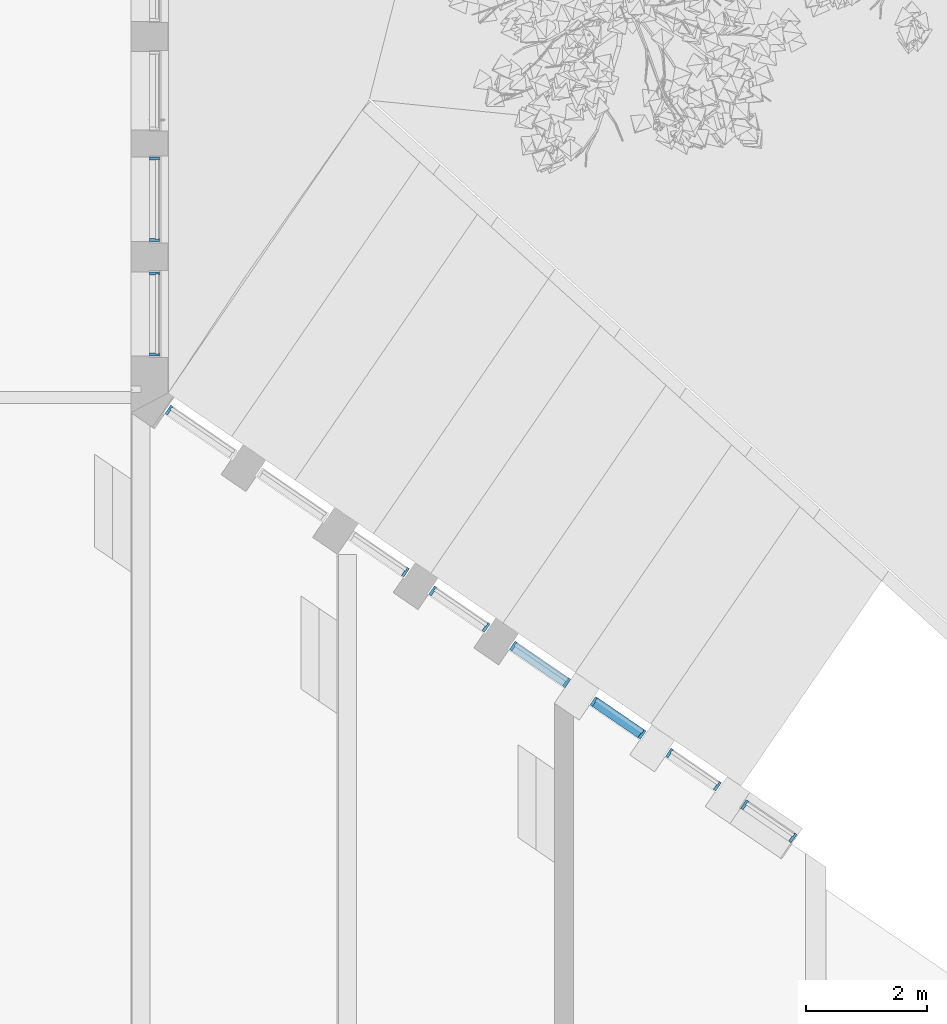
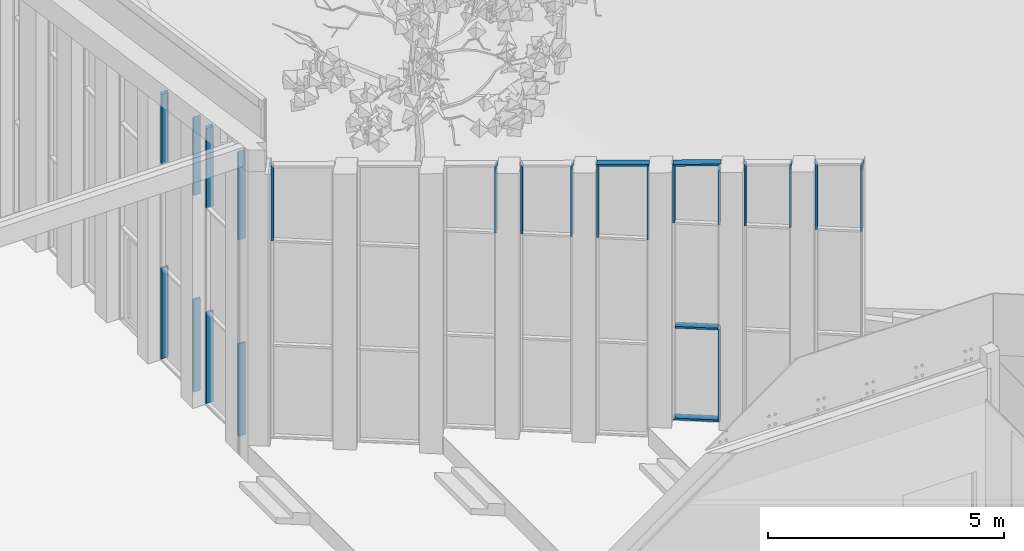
# One storey, part 63 of 246: 25 members, 9 elements without a shape of their own.
"""IFC2X3 building model written with IfcOpenShell, lengths in millimetres."""

from ifc_helpers import new_model, entity, si_unit, converted_unit, derived_unit, money_unit, direction, frame, origin_with_axes, place, context, subcontext, project, spatial, faceted_brep, material, type_object, element, aggregate, save


model = new_model("IFC2X3")

# Units and contexts
model_context = context("Model", 3, precision=0.01, world=origin_with_axes(), true_north=direction((0.0, 1.0)))
body_context = subcontext(model_context, "Body", "Model", "MODEL_VIEW")
ifc_project = project(units=[si_unit("LENGTHUNIT", "METRE", prefix="MILLI"), si_unit("AREAUNIT", "SQUARE_METRE"), si_unit("VOLUMEUNIT", "CUBIC_METRE"), converted_unit("PLANEANGLEUNIT", "DEGREE", entity("IfcPlaneAngleMeasure", 0.0174532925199), si_unit("PLANEANGLEUNIT", "RADIAN"), dimensions=[0, 0, 0, 0, 0, 0, 0]), si_unit("SOLIDANGLEUNIT", "STERADIAN"), money_unit("EUR"), converted_unit("TIMEUNIT", "Year", entity("IfcTimeMeasure", 31556926.0), si_unit("TIMEUNIT", "SECOND"), dimensions=[0, 0, 1, 0, 0, 0, 0]), si_unit("MASSUNIT", "GRAM", prefix="KILO"), si_unit("THERMODYNAMICTEMPERATUREUNIT", "DEGREE_CELSIUS"), si_unit("LUMINOUSINTENSITYUNIT", "LUMEN"), si_unit("ENERGYUNIT", "JOULE", prefix="MEGA"), derived_unit("THERMALCONDUCTANCEUNIT", [(si_unit("POWERUNIT", "WATT"), 1), (si_unit("LENGTHUNIT", "METRE"), -1), (si_unit("THERMODYNAMICTEMPERATUREUNIT", "KELVIN"), -1)]), derived_unit("SPECIFICHEATCAPACITYUNIT", [(si_unit("ENERGYUNIT", "JOULE"), 1), (si_unit("MASSUNIT", "GRAM", prefix="KILO"), -1), (si_unit("THERMODYNAMICTEMPERATUREUNIT", "KELVIN"), -1)]), derived_unit("MASSDENSITYUNIT", [(si_unit("MASSUNIT", "GRAM", prefix="KILO"), 1), (si_unit("VOLUMEUNIT", "CUBIC_METRE"), -1)])], contexts=[model_context])

# Site, building, storey
site_placement = place(None, origin_with_axes())
site = spatial("IfcSite", under=ifc_project, at=site_placement, Name="L.Koidula tn 11b", CompositionType="ELEMENT")
building_placement = place(site_placement, origin_with_axes())
building = spatial("IfcBuilding", under=site, at=building_placement, Name="Rakvere Riigigümnaasium", CompositionType="ELEMENT")
storey_placement = place(building_placement, origin_with_axes())
storey = spatial("IfcBuildingStorey", under=building, at=storey_placement, Name="1.korrus 0,00", CompositionType="ELEMENT", Elevation=0.0)

# Curtain wall, member
curtain_wall_type = type_object("IfcCurtainWallType", Name="Curtain Wall Type", PredefinedType="NOTDEFINED")
curtain_wall_1_placement = place(storey_placement, frame((55097.3440674, 38688.315244, 1395.00000109), z_axis=(0.0, 0.0, 1.0), x_axis=(1.0, 0.0, 0.0)))
curtain_wall_1 = element("IfcCurtainWall", 1, at=curtain_wall_1_placement, inside=storey, type_object=curtain_wall_type, Name="KLF-06-24")
ifc_material = material(Name="Alumiiniumprofiil (RAL 7021)")
member_type_1 = type_object("IfcMemberType", Name="Transom Frame 50 x 170", PredefinedType="MULLION")
member_1_placement = place(curtain_wall_1_placement, frame((-418.351684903, 286.937825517, 2400.00005693), z_axis=(0.824666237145, -0.565619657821, 0.0), x_axis=(0.0, 0.0, 1.0)))
member_1 = element("IfcMember", 2, at=member_1_placement, type_object=member_type_1, material=ifc_material, Name="KLF-06-24-Profiilid", ObjectType="MULLION", context=body_context, shape_type="Brep", body=[
    faceted_brep([(-12.0, 26.0, 964.748701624), (-12.0, -26.0, 964.748701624), (-25.0, -26.0, 964.750070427), (-25.0, -46.0, 964.750070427), (25.0, -46.0, 964.744805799), (25.0, -26.0, 964.744805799), (12.0, -26.0, 964.746174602), (12.0, 26.0, 964.746174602), (25.0, 26.0, 964.744805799), (25.0, 124.0, 964.744805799), (-25.0, 124.0, 964.750070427), (-25.0, 26.0, 964.750070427), (-12.0, 26.0, 50.0), (-12.0, -26.0, 50.0), (-25.0, -26.0, 50.0), (-25.0, -46.0, 50.0), (25.0, -46.0, 50.0), (25.0, -26.0, 50.0), (12.0, -26.0, 50.0), (12.0, 26.0, 50.0), (25.0, 26.0, 50.0), (25.0, 124.0, 50.0), (-25.0, 124.0, 50.0), (-25.0, 26.0, 50.0)], [[[0, 1, 2, 3, 4, 5, 6, 7, 8, 9, 10, 11]], [[0, 12, 13, 1]], [[1, 13, 14, 2]], [[14, 15, 3, 2]], [[4, 3, 15, 16]], [[17, 5, 4, 16]], [[5, 17, 18, 6]], [[7, 6, 18, 19]], [[8, 7, 19, 20]], [[8, 20, 21, 9]], [[10, 9, 21, 22]], [[11, 10, 22, 23]], [[11, 23, 12, 0]], [[13, 12, 23, 22, 21, 20, 19, 18, 17, 16, 15, 14]]]),
])

curtain_wall_2_placement = place(storey_placement, frame((48188.9005026, 43426.6609741, 465.0), z_axis=(0.0, 0.0, 1.0), x_axis=(1.0, 0.0, 0.0)))
curtain_wall_2 = element("IfcCurtainWall", 3, at=curtain_wall_2_placement, inside=storey, type_object=curtain_wall_type, Name="KLF-06-29")
member_type_2 = type_object("IfcMemberType", Name="Boundary Frame 50 x 170", PredefinedType="MULLION")
member_2_placement = place(curtain_wall_2_placement, frame((-552.526261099, 378.965089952, 7039.01609685), z_axis=(-1.52320702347e-08, 1.04473247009e-08, -1.0), x_axis=(0.824666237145, -0.565619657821, -1.84705862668e-08)))
member_2 = element("IfcMember", 4, at=member_2_placement, type_object=member_type_2, material=ifc_material, Name="KLF-06-51-Profiilid", ObjectType="MULLION", context=body_context, shape_type="Brep", body=[
    faceted_brep([(37.0000358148, 26.0, 1939.01609668), (50.0000358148, 26.0, 1939.01609644), (50.0000358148, 124.0, 1939.01609644), (3.58147609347e-05, 124.0, 1939.01609736), (3.58147609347e-05, -46.0, 1939.01609736), (50.0000358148, -46.0, 1939.01609644), (50.0000358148, -26.0, 1939.01609644), (37.0000358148, -26.0, 1939.01609668), (37.000000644, 26.0, 34.8661425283), (50.0000008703, 26.0, 47.1164088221), (50.0000008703, 124.0, 47.1164088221), (0.0, 124.0, 0.0), (0.0, -46.0, 0.0), (50.0000008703, -46.0, 47.1164088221), (50.0000008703, -26.0, 47.1164088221), (37.000000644, -26.0, 34.8661425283)], [[[0, 1, 2, 3, 4, 5, 6, 7]], [[0, 8, 9, 1]], [[9, 10, 2, 1]], [[2, 10, 11, 3]], [[3, 11, 12, 4]], [[4, 12, 13, 5]], [[6, 5, 13, 14]], [[14, 15, 7, 6]], [[7, 15, 8, 0]], [[8, 15, 14, 13, 12, 11, 10, 9]]]),
])
aggregate(curtain_wall_2, [member_2])

curtain_wall_3_placement = place(storey_placement, frame((51132.8497103, 41407.4731801, 929.821783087), z_axis=(0.0, 0.0, 1.0), x_axis=(1.0, 0.0, 0.0)))
curtain_wall_3 = element("IfcCurtainWall", 5, at=curtain_wall_3_placement, inside=storey, type_object=curtain_wall_type, Name="KLF-06-27")
member_3_placement = place(curtain_wall_3_placement, frame((461.812995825, -316.746941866, 5100.0000654), z_axis=(2.76097093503e-08, -1.89368663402e-08, 1.0), x_axis=(-0.824666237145, 0.565619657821, 3.34798589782e-08)))
member_3 = element("IfcMember", 6, at=member_3_placement, type_object=member_type_2, material=ifc_material, Name="KLF-06-46-Profiilid", ObjectType="MULLION", context=body_context, shape_type="Brep", body=[
    faceted_brep([(37.0000575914, 26.0, 1720.18114959), (50.0000571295, 26.0, 1706.3855298), (50.0000571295, 124.0, 1706.3855298), (5.89059858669e-05, 124.0, 1759.44560592), (5.89059823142e-05, -46.0, 1759.44560592), (50.0000571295, -46.0, 1706.3855298), (50.0000571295, -26.0, 1706.3855298), (37.0000575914, -26.0, 1720.18114959), (37.0, 26.0, -2.31914309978e-06), (50.0, 26.0, -2.75438161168e-06), (50.0, 124.0, -2.75438161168e-06), (0.0, 124.0, -1.08038822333e-06), (0.0, -46.0, -1.08038822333e-06), (50.0, -46.0, -2.75438161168e-06), (50.0, -26.0, -2.75438161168e-06), (37.0, -26.0, -2.31914309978e-06)], [[[0, 1, 2, 3, 4, 5, 6, 7]], [[0, 8, 9, 1]], [[9, 10, 2, 1]], [[10, 11, 3, 2]], [[11, 12, 4, 3]], [[12, 13, 5, 4]], [[6, 5, 13, 14]], [[14, 15, 7, 6]], [[7, 15, 8, 0]], [[8, 15, 14, 13, 12, 11, 10, 9]]]),
])
aggregate(curtain_wall_3, [member_3])

# Curtain wall, members
curtain_wall_4_placement = place(storey_placement, frame((52468.8871131, 40491.1147045, 929.82179112), z_axis=(0.0, 0.0, 1.0), x_axis=(1.0, 0.0, 0.0)))
curtain_wall_4 = element("IfcCurtainWall", 7, at=curtain_wall_4_placement, inside=storey, type_object=curtain_wall_type, Name="KLF-06-26")
member_4_placement = place(curtain_wall_4_placement, frame((-461.813622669, 316.746250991, 5100.00005736), z_axis=(0.0, 0.0, 1.0), x_axis=(-0.824667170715, 0.565618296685, 0.0)))
member_4 = element("IfcMember", 8, at=member_4_placement, type_object=member_type_2, material=ifc_material, Name="KLF-06-47-Profiilid", ObjectType="MULLION", context=body_context, shape_type="Brep", body=[
    faceted_brep([(-37.0, 26.0, 1754.30330733), (-37.0, -26.0, 1754.30330733), (-50.0, -26.0, 1742.05304003), (-50.0, -46.0, 1742.05304003), (0.0, -46.0, 1789.16945271), (0.0, 124.0, 1789.16945271), (-50.0, 124.0, 1742.05304003), (-50.0, 26.0, 1742.05304003), (-37.0, 26.0, 0.0), (-37.0, -26.0, 0.0), (-50.0, -26.0, 0.0), (-50.0, -46.0, 0.0), (0.0, -46.0, 0.0), (0.0, 124.0, 0.0), (-50.0, 124.0, 0.0), (-50.0, 26.0, 0.0)], [[[0, 1, 2, 3, 4, 5, 6, 7]], [[1, 0, 8, 9]], [[10, 2, 1, 9]], [[2, 10, 11, 3]], [[12, 4, 3, 11]], [[13, 5, 4, 12]], [[14, 6, 5, 13]], [[15, 7, 6, 14]], [[0, 7, 15, 8]], [[8, 15, 14, 13, 12, 11, 10, 9]]]),
])
member_5_placement = place(curtain_wall_4_placement, frame((461.81359071, -316.746229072, 5100.00005736), z_axis=(-2.57505861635e-08, 1.7661674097e-08, 1.0), x_axis=(-0.824667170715, 0.565618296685, -3.12254290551e-08)))
member_5 = element("IfcMember", 9, at=member_5_placement, type_object=member_type_2, material=ifc_material, Name="KLF-06-45-Profiilid", ObjectType="MULLION", context=body_context, shape_type="Brep", body=[
    faceted_brep([(36.9999432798, 26.0, 1816.47392622), (49.9999437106, 26.0, 1802.67830972), (49.9999437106, 124.0, 1802.67830972), (-5.7946227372e-05, 124.0, 1855.73837321), (-5.7946227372e-05, -46.0, 1855.73837321), (49.9999437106, -46.0, 1802.67830972), (49.9999437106, -26.0, 1802.67830972), (36.9999432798, -26.0, 1816.47392622), (37.0, 26.0, 7.33528793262e-07), (50.0, 26.0, 1.13945919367e-06), (50.0, 124.0, 1.13945919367e-06), (0.0, 124.0, -4.21811918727e-07), (0.0, -46.0, -4.21811918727e-07), (50.0, -46.0, 1.13945919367e-06), (50.0, -26.0, 1.13945919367e-06), (37.0, -26.0, 7.33528793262e-07)], [[[0, 1, 2, 3, 4, 5, 6, 7]], [[0, 8, 9, 1]], [[9, 10, 2, 1]], [[10, 11, 3, 2]], [[11, 12, 4, 3]], [[12, 13, 5, 4]], [[6, 5, 13, 14]], [[14, 15, 7, 6]], [[7, 15, 8, 0]], [[8, 15, 14, 13, 12, 11, 10, 9]]]),
])
aggregate(curtain_wall_4, [member_4, member_5])

curtain_wall_5_placement = place(storey_placement, frame((53804.0228659, 39575.3763588, 929.821791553), z_axis=(0.0, 0.0, 1.0), x_axis=(1.0, 0.0, 0.0)))
curtain_wall_5 = element("IfcCurtainWall", 10, at=curtain_wall_5_placement, inside=storey, type_object=curtain_wall_type, Name="KLF-06-25")
member_6_placement = place(curtain_wall_5_placement, frame((-461.813630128, 316.74737692, 5100.00005693), z_axis=(0.0, 0.0, 1.0), x_axis=(-0.824666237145, 0.565619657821, 0.0)))
member_6 = element("IfcMember", 11, at=member_6_placement, type_object=member_type_2, material=ifc_material, Name="KLF-06-54-Profiilid", ObjectType="MULLION", context=body_context, shape_type="Brep", body=[
    faceted_brep([(-37.0, 26.0, 1850.58864372), (-37.0, -26.0, 1850.58864372), (-50.0, -26.0, 1838.33772713), (-50.0, -46.0, 1838.33772713), (0.0, -46.0, 1885.4566371), (0.0, 124.0, 1885.4566371), (-50.0, 124.0, 1838.33772713), (-50.0, 26.0, 1838.33772713), (-37.0, 26.0, 0.0), (-37.0, -26.0, 0.0), (-50.0, -26.0, 0.0), (-50.0, -46.0, 0.0), (0.0, -46.0, 0.0), (0.0, 124.0, 0.0), (-50.0, 124.0, 0.0), (-50.0, 26.0, 0.0)], [[[0, 1, 2, 3, 4, 5, 6, 7]], [[1, 0, 8, 9]], [[10, 2, 1, 9]], [[2, 10, 11, 3]], [[12, 4, 3, 11]], [[13, 5, 4, 12]], [[14, 6, 5, 13]], [[15, 7, 6, 14]], [[0, 7, 15, 8]], [[8, 15, 14, 13, 12, 11, 10, 9]]]),
])
member_7_placement = place(curtain_wall_5_placement, frame((461.813643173, -316.747385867, 5100.00005693), z_axis=(1.28503407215e-08, -8.81375830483e-09, 1.0), x_axis=(-0.824666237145, 0.565619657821, 1.55824770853e-08)))
member_7 = element("IfcMember", 12, at=member_7_placement, type_object=member_type_2, material=ifc_material, Name="KLF-06-52-Profiilid", ObjectType="MULLION", context=body_context, shape_type="Brep", body=[
    faceted_brep([(37.0000298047, 26.0, 1912.70380687), (50.0000295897, 26.0, 1898.90892027), (50.0000295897, 124.0, 1898.90892027), (3.04164728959e-05, 124.0, 1951.96617642), (3.04164693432e-05, -46.0, 1951.96617642), (50.0000295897, -46.0, 1898.90892027), (50.0000295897, -26.0, 1898.90892027), (37.0000298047, -26.0, 1912.70380687), (37.0, 26.0, -6.73185063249e-07), (50.0, 26.0, -8.75757244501e-07), (50.0, 124.0, -8.75757244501e-07), (0.0, 124.0, -9.6632923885e-08), (0.0, -46.0, -9.66338120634e-08), (50.0, -46.0, -8.75758132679e-07), (50.0, -26.0, -8.75758132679e-07), (37.0, -26.0, -6.73185063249e-07)], [[[0, 1, 2, 3, 4, 5, 6, 7]], [[0, 8, 9, 1]], [[9, 10, 2, 1]], [[10, 11, 3, 2]], [[11, 12, 4, 3]], [[12, 13, 5, 4]], [[6, 5, 13, 14]], [[14, 15, 7, 6]], [[7, 15, 8, 0]], [[8, 15, 14, 13, 12, 11, 10, 9]]]),
])
member_8_placement = place(curtain_wall_5_placement, frame((461.813668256, -316.747403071, 7051.96623335), z_axis=(-0.82321602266, 0.564624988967, -0.0592790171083), x_axis=(0.0488854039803, -0.0335293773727, -0.998241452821)))
member_8 = element("IfcMember", 13, at=member_8_placement, type_object=member_type_2, material=ifc_material, Name="KLF-06-53-Profiilid", ObjectType="MULLION", context=body_context, shape_type="Brep", body=[
    faceted_brep([(37.0, 26.0, 1087.1064009), (50.0, 26.0, 1074.85548431), (50.0, 124.0, 1074.85548431), (0.0, 124.0, 1121.97439428), (0.0, -46.0, 1121.97439428), (50.0, -46.0, 1074.85548431), (50.0, -26.0, 1074.85548431), (37.0, -26.0, 1087.1064009), (37.0, 26.0, 39.262368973), (50.0, 26.0, 53.0572553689), (50.0, 124.0, 53.0572553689), (0.0, 124.0, 0.0), (0.0, -46.0, 0.0), (50.0, -46.0, 53.0572553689), (50.0, -26.0, 53.0572553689), (37.0, -26.0, 39.262368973)], [[[0, 1, 2, 3, 4, 5, 6, 7]], [[0, 8, 9, 1]], [[9, 10, 2, 1]], [[2, 10, 11, 3]], [[3, 11, 12, 4]], [[4, 12, 13, 5]], [[6, 5, 13, 14]], [[14, 15, 7, 6]], [[7, 15, 8, 0]], [[8, 15, 14, 13, 12, 11, 10, 9]]]),
])
aggregate(curtain_wall_5, [member_6, member_7, member_8])

# Member
member_9_placement = place(curtain_wall_1_placement, frame((418.227103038, -286.852377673, 5100.00005693), z_axis=(-8.68141369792e-05, 5.95438254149e-05, 0.999999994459), x_axis=(-0.824666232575, 0.565619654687, -0.00010527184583)))
member_9 = element("IfcMember", 14, at=member_9_placement, type_object=member_type_2, material=ifc_material, Name="KLF-06-43-Profiilid", ObjectType="MULLION", context=body_context, shape_type="Brep", body=[
    faceted_brep([(37.0, 26.0, 1406.85447369), (50.0, 26.0, 1406.85447369), (50.0, 124.0, 1406.85447369), (0.0, 124.0, 1406.85447369), (0.0, -46.0, 1406.85447369), (50.0, -46.0, 1406.85447369), (50.0, -26.0, 1406.85447369), (37.0, -26.0, 1406.85447369), (37.0, 26.0, -0.000165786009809), (50.0, 26.0, -0.000165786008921), (50.0, 124.0, -0.000165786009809), (0.0, 124.0, -0.000165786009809), (0.0, -46.0, -0.000165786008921), (50.0, -46.0, -0.000165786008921), (50.0, -26.0, -0.000165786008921), (37.0, -26.0, -0.000165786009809)], [[[0, 1, 2, 3, 4, 5, 6, 7]], [[0, 8, 9, 1]], [[9, 10, 2, 1]], [[10, 11, 3, 2]], [[11, 12, 4, 3]], [[12, 13, 5, 4]], [[6, 5, 13, 14]], [[14, 15, 7, 6]], [[7, 15, 8, 0]], [[8, 15, 14, 13, 12, 11, 10, 9]]]),
])

member_10_placement = place(curtain_wall_1_placement, frame((418.684661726, -287.166206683, 0.0), z_axis=(-8.68312304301e-05, 5.95555494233e-05, 0.999999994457), x_axis=(-0.824666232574, 0.565619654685, -0.000105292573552)))
member_10 = element("IfcMember", 15, at=member_10_placement, type_object=member_type_2, material=ifc_material, Name="KLF-06-41-Profiilid", ObjectType="MULLION", context=body_context, shape_type="Brep", body=[
    faceted_brep([(37.0, 26.0, 2400.0002355), (50.0, 26.0, 2400.0002355), (50.0, 124.0, 2400.0002355), (0.0, 124.0, 2400.0002355), (0.0, -46.0, 2400.0002355), (50.0, -46.0, 2400.0002355), (50.0, -26.0, 2400.0002355), (37.0, -26.0, 2400.0002355), (37.0, 26.0, 37.0038960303), (50.0, 26.0, 50.0052649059), (50.0, 124.0, 50.0052649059), (0.0, 124.0, 0.0), (0.0, -46.0, 0.0), (50.0, -46.0, 50.0052649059), (50.0, -26.0, 50.0052649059), (37.0, -26.0, 37.0038960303)], [[[0, 1, 2, 3, 4, 5, 6, 7]], [[0, 8, 9, 1]], [[9, 10, 2, 1]], [[2, 10, 11, 3]], [[3, 11, 12, 4]], [[4, 12, 13, 5]], [[6, 5, 13, 14]], [[14, 15, 7, 6]], [[7, 15, 8, 0]], [[8, 15, 14, 13, 12, 11, 10, 9]]]),
])

member_11_placement = place(curtain_wall_1_placement, frame((-418.351684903, 286.937825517, 5100.00005693), z_axis=(0.0, 0.0, 1.0), x_axis=(-0.824666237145, 0.565619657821, 0.0)))
member_11 = element("IfcMember", 16, at=member_11_placement, type_object=member_type_2, material=ifc_material, Name="KLF-06-45-Profiilid", ObjectType="MULLION", context=body_context, shape_type="Brep", body=[
    faceted_brep([(-37.0, 26.0, 1481.69937095), (-37.0, -26.0, 1481.69937095), (-50.0, -26.0, 1469.44910308), (-50.0, -46.0, 1469.44910308), (0.0, -46.0, 1516.56551795), (0.0, 124.0, 1516.56551795), (-50.0, 124.0, 1469.44910308), (-50.0, 26.0, 1469.44910308), (-37.0, 26.0, 0.0), (-37.0, -26.0, 0.0), (-50.0, -26.0, 0.0), (-50.0, -46.0, 0.0), (0.0, -46.0, 0.0), (0.0, 124.0, 0.0), (-50.0, 124.0, 0.0), (-50.0, 26.0, 0.0)], [[[0, 1, 2, 3, 4, 5, 6, 7]], [[1, 0, 8, 9]], [[10, 2, 1, 9]], [[2, 10, 11, 3]], [[12, 4, 3, 11]], [[13, 5, 4, 12]], [[14, 6, 5, 13]], [[15, 7, 6, 14]], [[0, 7, 15, 8]], [[8, 15, 14, 13, 12, 11, 10, 9]]]),
])

member_12_placement = place(curtain_wall_1_placement, frame((-418.351684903, 286.937825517, 0.0), z_axis=(0.824666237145, -0.565619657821, 0.0), x_axis=(0.0, 0.0, 1.0)))
member_12 = element("IfcMember", 17, at=member_12_placement, type_object=member_type_2, material=ifc_material, Name="KLF-06-40-Profiilid", ObjectType="MULLION", context=body_context, shape_type="Brep", body=[
    faceted_brep([(37.0, 26.0, 977.996244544), (50.0, 26.0, 964.994875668), (50.0, 124.0, 964.994875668), (0.0, 124.0, 1015.00014057), (0.0, -46.0, 1015.00014057), (50.0, -46.0, 964.994875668), (50.0, -26.0, 964.994875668), (37.0, -26.0, 977.996244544), (37.0, 26.0, 37.0), (50.0, 26.0, 50.0), (50.0, 124.0, 50.0), (0.0, 124.0, 0.0), (0.0, -46.0, 0.0), (50.0, -46.0, 50.0), (50.0, -26.0, 50.0), (37.0, -26.0, 37.0)], [[[0, 1, 2, 3, 4, 5, 6, 7]], [[0, 8, 9, 1]], [[9, 10, 2, 1]], [[2, 10, 11, 3]], [[3, 11, 12, 4]], [[4, 12, 13, 5]], [[6, 5, 13, 14]], [[14, 15, 7, 6]], [[7, 15, 8, 0]], [[8, 15, 14, 13, 12, 11, 10, 9]]]),
])

member_13_placement = place(curtain_wall_1_placement, frame((418.105016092, -286.768641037, 6676.85184731), z_axis=(-0.823213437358, 0.564623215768, -0.0593317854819), x_axis=(0.0489289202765, -0.0335592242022, -0.998238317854)))
member_13 = element("IfcMember", 18, at=member_13_placement, type_object=member_type_2, material=ifc_material, Name="KLF-06-44-Profiilid", ObjectType="MULLION", context=body_context, shape_type="Brep", body=[
    faceted_brep([(37.0, 26.0, 981.221131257), (50.0, 26.0, 968.97086339), (50.0, 124.0, 968.97086339), (0.0, 124.0, 1016.08727826), (0.0, -46.0, 1016.08727826), (50.0, -46.0, 968.97086339), (50.0, -26.0, 968.97086339), (37.0, -26.0, 981.221131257), (37.0, 26.0, 39.2644609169), (50.0, 26.0, 53.0600823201), (50.0, 124.0, 53.0600823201), (0.0, 124.0, 0.0), (0.0, -46.0, 0.0), (50.0, -46.0, 53.0600823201), (50.0, -26.0, 53.0600823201), (37.0, -26.0, 39.2644609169)], [[[0, 1, 2, 3, 4, 5, 6, 7]], [[0, 8, 9, 1]], [[9, 10, 2, 1]], [[2, 10, 11, 3]], [[3, 11, 12, 4]], [[4, 12, 13, 5]], [[6, 5, 13, 14]], [[14, 15, 7, 6]], [[7, 15, 8, 0]], [[8, 15, 14, 13, 12, 11, 10, 9]]]),
])

aggregate(curtain_wall_1, [member_1, member_9, member_10, member_11, member_12, member_13])

# Curtain wall, members
curtain_wall_6_placement = place(storey_placement, frame((57595.8829175, 36974.6265181, 1395.00000109), z_axis=(0.0, 0.0, 1.0), x_axis=(1.0, 0.0, 0.0)))
curtain_wall_6 = element("IfcCurtainWall", 19, at=curtain_wall_6_placement, inside=storey, type_object=curtain_wall_type, Name="KLF-06-22")
member_14_placement = place(curtain_wall_6_placement, frame((-418.518106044, 287.051969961, 6796.63177211), z_axis=(-9.42698700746e-09, 6.46575520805e-09, -1.0), x_axis=(0.824666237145, -0.565619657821, -1.14312761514e-08)))
member_14 = element("IfcMember", 20, at=member_14_placement, type_object=member_type_2, material=ifc_material, Name="KLF-06-44-Profiilid", ObjectType="MULLION", context=body_context, shape_type="Brep", body=[
    faceted_brep([(37.0000193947, 26.0, 1696.63171504), (50.0000193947, 26.0, 1696.63171489), (50.0000193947, 124.0, 1696.63171489), (1.93946618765e-05, 124.0, 1696.63171546), (1.93946654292e-05, -46.0, 1696.63171546), (50.0000193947, -46.0, 1696.63171489), (50.0000193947, -26.0, 1696.63171489), (37.0000193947, -26.0, 1696.63171504), (37.0000003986, 26.0, 34.8661449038), (50.0000005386, 26.0, 47.1164120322), (50.0000005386, 124.0, 47.1164120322), (0.0, 124.0, 0.0), (0.0, -46.0, 0.0), (50.0000005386, -46.0, 47.1164120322), (50.0000005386, -26.0, 47.1164120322), (37.0000003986, -26.0, 34.8661449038)], [[[0, 1, 2, 3, 4, 5, 6, 7]], [[0, 8, 9, 1]], [[9, 10, 2, 1]], [[2, 10, 11, 3]], [[3, 11, 12, 4]], [[4, 12, 13, 5]], [[6, 5, 13, 14]], [[14, 15, 7, 6]], [[7, 15, 8, 0]], [[8, 15, 14, 13, 12, 11, 10, 9]]]),
])
member_15_placement = place(curtain_wall_6_placement, frame((418.518113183, -287.051974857, 5100.00005693), z_axis=(-6.43211592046e-09, 4.41164121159e-09, 1.0), x_axis=(-0.824666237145, 0.565619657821, -7.79965982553e-09)))
member_15 = element("IfcMember", 21, at=member_15_placement, type_object=member_type_2, material=ifc_material, Name="KLF-06-42-Profiilid", ObjectType="MULLION", context=body_context, shape_type="Brep", body=[
    faceted_brep([(36.9999866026, 26.0, 1717.69534357), (49.9999867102, 26.0, 1703.89972657), (49.9999867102, 124.0, 1703.89972657), (-1.37036906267e-05, 124.0, 1756.95979196), (-1.37036941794e-05, -46.0, 1756.95979196), (49.9999867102, -46.0, 1703.89972657), (49.9999867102, -26.0, 1703.89972657), (36.9999866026, -26.0, 1717.69534357), (37.0, 26.0, 2.84727796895e-07), (50.0, 26.0, 3.86123133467e-07), (50.0, 124.0, 3.86123133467e-07), (0.0, 124.0, -3.86002341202e-09), (0.0, -46.0, -3.86002341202e-09), (50.0, -46.0, 3.86123133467e-07), (50.0, -26.0, 3.86123133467e-07), (37.0, -26.0, 2.84727796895e-07)], [[[0, 1, 2, 3, 4, 5, 6, 7]], [[0, 8, 9, 1]], [[9, 10, 2, 1]], [[10, 11, 3, 2]], [[11, 12, 4, 3]], [[12, 13, 5, 4]], [[6, 5, 13, 14]], [[14, 15, 7, 6]], [[7, 15, 8, 0]], [[8, 15, 14, 13, 12, 11, 10, 9]]]),
])
aggregate(curtain_wall_6, [member_14, member_15])

curtain_wall_7_placement = place(storey_placement, frame((47434.0002355, 45350.4555374, 5.21984029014), z_axis=(0.0, 0.0, 1.0), x_axis=(1.0, 0.0, 0.0)))
curtain_wall_7 = element("IfcCurtainWall", 22, at=curtain_wall_7_placement, inside=storey, type_object=curtain_wall_type, Name="KLF-07-01")
member_16_placement = place(curtain_wall_7_placement, frame((-0.000241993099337, -699.999948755, 5094.78015971), z_axis=(0.0, -2.55242491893e-10, 1.0), x_axis=(3.45704454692e-07, 1.0, 2.55242491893e-10)))
member_16 = element("IfcMember", 23, at=member_16_placement, type_object=member_type_2, material=ifc_material, Name="KLF-07-07-Profiilid", ObjectType="MULLION", context=body_context, shape_type="Brep", body=[
    faceted_brep([(37.000000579, 26.0, 2268.29852227), (50.0000005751, 26.0, 2253.31657079), (50.0000005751, 124.0, 2253.31657079), (5.89857052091e-07, 124.0, 2310.9394611), (5.89849946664e-07, -46.0, 2310.9394611), (50.0000005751, -46.0, 2253.31657079), (50.0000005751, -26.0, 2253.31657079), (37.000000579, -26.0, 2268.29852227), (37.0, 26.0, -1.51136880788e-07), (50.0, 26.0, -1.54455115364e-07), (50.0, 124.0, -1.54455115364e-07), (0.0, 124.0, -1.41692879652e-07), (0.0, -46.0, -1.41692879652e-07), (50.0, -46.0, -1.54455115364e-07), (50.0, -26.0, -1.54455115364e-07), (37.0, -26.0, -1.51136880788e-07)], [[[0, 1, 2, 3, 4, 5, 6, 7]], [[0, 8, 9, 1]], [[9, 10, 2, 1]], [[10, 11, 3, 2]], [[11, 12, 4, 3]], [[12, 13, 5, 4]], [[6, 5, 13, 14]], [[14, 15, 7, 6]], [[7, 15, 8, 0]], [[8, 15, 14, 13, 12, 11, 10, 9]]]),
])
member_17_placement = place(curtain_wall_7_placement, frame((-0.000241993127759, -700.000034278, -1.71994152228e-05), z_axis=(0.0, 2.96102592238e-08, 1.0), x_axis=(3.45704454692e-07, 1.0, -2.96102592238e-08)))
member_17 = element("IfcMember", 24, at=member_17_placement, type_object=member_type_2, material=ifc_material, Name="KLF-07-05-Profiilid", ObjectType="MULLION", context=body_context, shape_type="Brep", body=[
    faceted_brep([(36.9999290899, 26.0, 2394.78017861), (49.9999290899, 26.0, 2394.78017899), (49.9999290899, 124.0, 2394.78017899), (-7.09100547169e-05, 124.0, 2394.78017751), (-7.09100618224e-05, -46.0, 2394.78017751), (49.9999290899, -46.0, 2394.78017899), (49.9999290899, -26.0, 2394.78017899), (36.9999290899, -26.0, 2394.78017861), (36.9999989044, 26.0, 37.0000021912), (49.9999985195, 26.0, 50.0000029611), (49.9999985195, 124.0, 50.0000029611), (0.0, 124.0, 0.0), (0.0, -46.0, 0.0), (49.9999985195, -46.0, 50.0000029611), (49.9999985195, -26.0, 50.0000029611), (36.9999989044, -26.0, 37.0000021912)], [[[0, 1, 2, 3, 4, 5, 6, 7]], [[0, 8, 9, 1]], [[9, 10, 2, 1]], [[2, 10, 11, 3]], [[3, 11, 12, 4]], [[4, 12, 13, 5]], [[6, 5, 13, 14]], [[14, 15, 7, 6]], [[7, 15, 8, 0]], [[8, 15, 14, 13, 12, 11, 10, 9]]]),
])
member_18_placement = place(curtain_wall_7_placement, frame((0.000241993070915, 699.999869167, 7206.39669143), z_axis=(0.0, 2.13237939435e-08, -1.0), x_axis=(-3.45704454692e-07, -1.0, -2.13237939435e-08)))
member_18 = element("IfcMember", 25, at=member_18_placement, type_object=member_type_2, material=ifc_material, Name="KLF-07-09-Profiilid", ObjectType="MULLION", context=body_context, shape_type="Brep", body=[
    faceted_brep([(37.0000450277, 26.0, 2111.61653118), (50.0000450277, 26.0, 2111.61653091), (50.0000450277, 124.0, 2111.61653091), (4.50276758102e-05, 124.0, 2111.61653197), (4.50276758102e-05, -46.0, 2111.61653197), (50.0000450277, -46.0, 2111.61653091), (50.0000450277, -26.0, 2111.61653091), (37.0000450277, -26.0, 2111.61653118), (37.0000006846, 26.0, 32.105295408), (50.0000009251, 26.0, 43.3855343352), (50.0000009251, 124.0, 43.3855343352), (0.0, 124.0, 0.0), (0.0, -46.0, 0.0), (50.0000009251, -46.0, 43.3855343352), (50.0000009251, -26.0, 43.3855343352), (37.0000006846, -26.0, 32.105295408)], [[[0, 1, 2, 3, 4, 5, 6, 7]], [[0, 8, 9, 1]], [[9, 10, 2, 1]], [[2, 10, 11, 3]], [[3, 11, 12, 4]], [[4, 12, 13, 5]], [[6, 5, 13, 14]], [[14, 15, 7, 6]], [[7, 15, 8, 0]], [[8, 15, 14, 13, 12, 11, 10, 9]]]),
])
member_19_placement = place(curtain_wall_7_placement, frame((0.000241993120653, 699.999998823, 2394.78015971), z_axis=(0.0, 0.0, -1.0), x_axis=(-3.45704454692e-07, -1.0, 0.0)))
member_19 = element("IfcMember", 26, at=member_19_placement, type_object=member_type_2, material=ifc_material, Name="KLF-07-03-Profiilid", ObjectType="MULLION", context=body_context, shape_type="Brep", body=[
    faceted_brep([(37.0, 26.0, 2357.78017691), (50.0, 26.0, 2344.78017691), (50.0, 124.0, 2344.78017691), (0.0, 124.0, 2394.78017691), (0.0, -46.0, 2394.78017691), (50.0, -46.0, 2344.78017691), (50.0, -26.0, 2344.78017691), (37.0, -26.0, 2357.78017691), (37.0, 26.0, -7.83596743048e-07), (50.0, 26.0, -7.83596743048e-07), (50.0, 124.0, -7.83596743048e-07), (0.0, 124.0, -7.83596743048e-07), (0.0, -46.0, -7.83596743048e-07), (50.0, -46.0, -7.83596743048e-07), (50.0, -26.0, -7.83596743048e-07), (37.0, -26.0, -7.83596743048e-07)], [[[0, 1, 2, 3, 4, 5, 6, 7]], [[0, 8, 9, 1]], [[9, 10, 2, 1]], [[10, 11, 3, 2]], [[11, 12, 4, 3]], [[12, 13, 5, 4]], [[6, 5, 13, 14]], [[14, 15, 7, 6]], [[7, 15, 8, 0]], [[8, 15, 14, 13, 12, 11, 10, 9]]]),
])
aggregate(curtain_wall_7, [member_16, member_17, member_18, member_19])

curtain_wall_8_placement = place(storey_placement, frame((47434.0004775, 47250.4555065, 5.1807707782), z_axis=(0.0, 0.0, 1.0), x_axis=(1.0, 0.0, 0.0)))
curtain_wall_8 = element("IfcCurtainWall", 27, at=curtain_wall_8_placement, inside=storey, type_object=curtain_wall_type, Name="KLF-07-02")
member_20_placement = place(curtain_wall_8_placement, frame((0.0, 700.000016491, 8.18090823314e-05), z_axis=(0.0, 0.0, 1.0), x_axis=(0.0, 1.0, 0.0)))
member_20 = element("IfcMember", 28, at=member_20_placement, type_object=member_type_2, material=ifc_material, Name="KLF-07-90-Profiilid", ObjectType="MULLION", context=body_context, shape_type="Brep", body=[
    faceted_brep([(-37.0, 26.0, 2394.81914741), (-37.0, -26.0, 2394.81914741), (-50.0, -26.0, 2394.81914741), (-50.0, -46.0, 2394.81914741), (0.0, -46.0, 2394.81914741), (0.0, 124.0, 2394.81914741), (-50.0, 124.0, 2394.81914741), (-50.0, 26.0, 2394.81914741), (-37.0, 26.0, 36.9999971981), (-37.0, -26.0, 36.9999971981), (-50.0, -26.0, 49.9999962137), (-50.0, -46.0, 49.9999962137), (0.0, -46.0, 0.0), (0.0, 124.0, 0.0), (-50.0, 124.0, 49.9999962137), (-50.0, 26.0, 49.9999962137)], [[[0, 1, 2, 3, 4, 5, 6, 7]], [[1, 0, 8, 9]], [[10, 2, 1, 9]], [[2, 10, 11, 3]], [[4, 3, 11, 12]], [[5, 4, 12, 13]], [[6, 5, 13, 14]], [[15, 7, 6, 14]], [[0, 7, 15, 8]], [[8, 15, 14, 13, 12, 11, 10, 9]]]),
])
member_21_placement = place(curtain_wall_8_placement, frame((0.0, 700.000016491, 5094.81922922), z_axis=(0.0, 0.0, 1.0), x_axis=(0.0, 1.0, 0.0)))
member_21 = element("IfcMember", 29, at=member_21_placement, type_object=member_type_2, material=ifc_material, Name="KLF-07-88-Profiilid", ObjectType="MULLION", context=body_context, shape_type="Brep", body=[
    faceted_brep([(-37.0, 26.0, 1809.00169771), (-37.0, -26.0, 1809.00169771), (-50.0, -26.0, 1797.72145635), (-50.0, -46.0, 1797.72145635), (0.0, -46.0, 1841.10700004), (0.0, 124.0, 1841.10700004), (-50.0, 124.0, 1797.72145635), (-50.0, 26.0, 1797.72145635), (-37.0, 26.0, 0.0), (-37.0, -26.0, 0.0), (-50.0, -26.0, 0.0), (-50.0, -46.0, 0.0), (0.0, -46.0, 0.0), (0.0, 124.0, 0.0), (-50.0, 124.0, 0.0), (-50.0, 26.0, 0.0)], [[[0, 1, 2, 3, 4, 5, 6, 7]], [[1, 0, 8, 9]], [[10, 2, 1, 9]], [[2, 10, 11, 3]], [[12, 4, 3, 11]], [[13, 5, 4, 12]], [[14, 6, 5, 13]], [[15, 7, 6, 14]], [[0, 7, 15, 8]], [[8, 15, 14, 13, 12, 11, 10, 9]]]),
])
member_22_placement = place(curtain_wall_8_placement, frame((0.0, -700.000016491, 5094.81922922), z_axis=(0.0, 0.0, 1.0), x_axis=(0.0, 1.0, 0.0)))
member_22 = element("IfcMember", 30, at=member_22_placement, type_object=member_type_2, material=ifc_material, Name="KLF-07-86-Profiilid", ObjectType="MULLION", context=body_context, shape_type="Brep", body=[
    faceted_brep([(37.0, 26.0, 1997.78878871), (50.0, 26.0, 1982.80683978), (50.0, 124.0, 1982.80683978), (0.0, 124.0, 2040.42972029), (0.0, -46.0, 2040.42972029), (50.0, -46.0, 1982.80683978), (50.0, -26.0, 1982.80683978), (37.0, -26.0, 1997.78878871), (37.0, 26.0, -2.03941752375e-07), (50.0, 26.0, -2.03942640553e-07), (50.0, 124.0, -2.03942640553e-07), (0.0, 124.0, -2.03942640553e-07), (0.0, -46.0, -2.03942640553e-07), (50.0, -46.0, -2.03942640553e-07), (50.0, -26.0, -2.03942640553e-07), (37.0, -26.0, -2.03941752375e-07)], [[[0, 1, 2, 3, 4, 5, 6, 7]], [[0, 8, 9, 1]], [[9, 10, 2, 1]], [[10, 11, 3, 2]], [[11, 12, 4, 3]], [[12, 13, 5, 4]], [[6, 5, 13, 14]], [[14, 15, 7, 6]], [[7, 15, 8, 0]], [[8, 15, 14, 13, 12, 11, 10, 9]]]),
])
member_23_placement = place(curtain_wall_8_placement, frame((0.0, -699.999970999, -2.4208132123e-05), z_axis=(0.0, -9.79886868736e-09, 1.0), x_axis=(0.0, 1.0, 9.79886868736e-09)))
member_23 = element("IfcMember", 31, at=member_23_placement, type_object=member_type_2, material=ifc_material, Name="KLF-07-84-Profiilid", ObjectType="MULLION", context=body_context, shape_type="Brep", body=[
    faceted_brep([(37.0000234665, 26.0, 2394.81925311), (50.0000234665, 26.0, 2394.81925298), (50.0000234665, 124.0, 2394.81925298), (2.34665193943e-05, 124.0, 2394.81925347), (2.34665193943e-05, -46.0, 2394.81925347), (50.0000234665, -46.0, 2394.81925298), (50.0000234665, -26.0, 2394.81925298), (37.0000234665, -26.0, 2394.81925311), (37.0000003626, 26.0, 37.0000020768), (50.0000004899, 26.0, 50.0000028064), (50.0000004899, 124.0, 50.0000028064), (0.0, 124.0, 0.0), (0.0, -46.0, 0.0), (50.0000004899, -46.0, 50.0000028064), (50.0000004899, -26.0, 50.0000028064), (37.0000003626, -26.0, 37.0000020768)], [[[0, 1, 2, 3, 4, 5, 6, 7]], [[0, 8, 9, 1]], [[9, 10, 2, 1]], [[2, 10, 11, 3]], [[3, 11, 12, 4]], [[4, 12, 13, 5]], [[6, 5, 13, 14]], [[14, 15, 7, 6]], [[7, 15, 8, 0]], [[8, 15, 14, 13, 12, 11, 10, 9]]]),
])
aggregate(curtain_wall_8, [member_20, member_21, member_22, member_23])

curtain_wall_9_placement = place(storey_placement, frame((56346.8798402, 37831.2873164, 1395.00000109), z_axis=(0.0, 0.0, 1.0), x_axis=(1.0, 0.0, 0.0)))
curtain_wall_9 = element("IfcCurtainWall", 32, at=curtain_wall_9_placement, inside=storey, type_object=curtain_wall_type, Name="KLF-06-23")
member_24_placement = place(curtain_wall_9_placement, frame((-418.518158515, 287.052005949, 6706.6119155), z_axis=(7.96005430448e-09, -5.45961776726e-09, -1.0), x_axis=(0.824666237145, -0.565619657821, 9.65245516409e-09)))
member_24 = element("IfcMember", 33, at=member_24_placement, type_object=member_type_2, material=ifc_material, Name="KLF-06-45-Profiilid", ObjectType="MULLION", context=body_context, shape_type="Brep", body=[
    faceted_brep([(36.9999844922, 26.0, 1606.61185917), (49.9999844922, 26.0, 1606.61185929), (49.9999844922, 124.0, 1606.61185929), (-1.55077550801e-05, 124.0, 1606.61185881), (-1.55077515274e-05, -46.0, 1606.61185881), (49.9999844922, -46.0, 1606.61185929), (49.9999844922, -26.0, 1606.61185929), (36.9999844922, -26.0, 1606.61185917), (36.9999996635, 26.0, 34.8661507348), (49.9999995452, 26.0, 47.1164199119), (49.9999995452, 124.0, 47.1164199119), (0.0, 124.0, 0.0), (0.0, -46.0, 0.0), (49.9999995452, -46.0, 47.1164199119), (49.9999995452, -26.0, 47.1164199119), (36.9999996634, -26.0, 34.8661507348)], [[[0, 1, 2, 3, 4, 5, 6, 7]], [[0, 8, 9, 1]], [[9, 10, 2, 1]], [[2, 10, 11, 3]], [[3, 11, 12, 4]], [[4, 12, 13, 5]], [[6, 5, 13, 14]], [[14, 15, 7, 6]], [[7, 15, 8, 0]], [[8, 15, 14, 13, 12, 11, 10, 9]]]),
])
member_25_placement = place(curtain_wall_9_placement, frame((418.518160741, -287.052007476, 5100.00005693), z_axis=(-8.03269218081e-09, 5.50944123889e-09, 1.0), x_axis=(-0.824666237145, 0.565619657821, -9.74053830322e-09)))
member_25 = element("IfcMember", 34, at=member_25_placement, type_object=member_type_2, material=ifc_material, Name="KLF-06-43-Profiilid", ObjectType="MULLION", context=body_context, shape_type="Brep", body=[
    faceted_brep([(36.9999841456, 26.0, 1627.67537321), (49.9999842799, 26.0, 1613.87975797), (49.9999842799, 124.0, 1613.87975797), (-1.62368891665e-05, 124.0, 1666.93981659), (-1.62368927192e-05, -46.0, 1666.93981659), (49.9999842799, -46.0, 1613.87975797), (49.9999842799, -26.0, 1613.87975797), (36.9999841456, -26.0, 1627.67537321), (37.0, 26.0, -2.20275353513e-07), (50.0, 26.0, -9.36486443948e-08), (50.0, 124.0, -9.36486443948e-08), (0.0, 124.0, -5.80675951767e-07), (0.0, -46.0, -5.80675063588e-07), (50.0, -46.0, -9.36486443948e-08), (50.0, -26.0, -9.36486443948e-08), (37.0, -26.0, -2.20275353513e-07)], [[[0, 1, 2, 3, 4, 5, 6, 7]], [[0, 8, 9, 1]], [[9, 10, 2, 1]], [[10, 11, 3, 2]], [[11, 12, 4, 3]], [[12, 13, 5, 4]], [[6, 5, 13, 14]], [[14, 15, 7, 6]], [[7, 15, 8, 0]], [[8, 15, 14, 13, 12, 11, 10, 9]]]),
])
aggregate(curtain_wall_9, [member_24, member_25])

save(model, "model.ifc")
